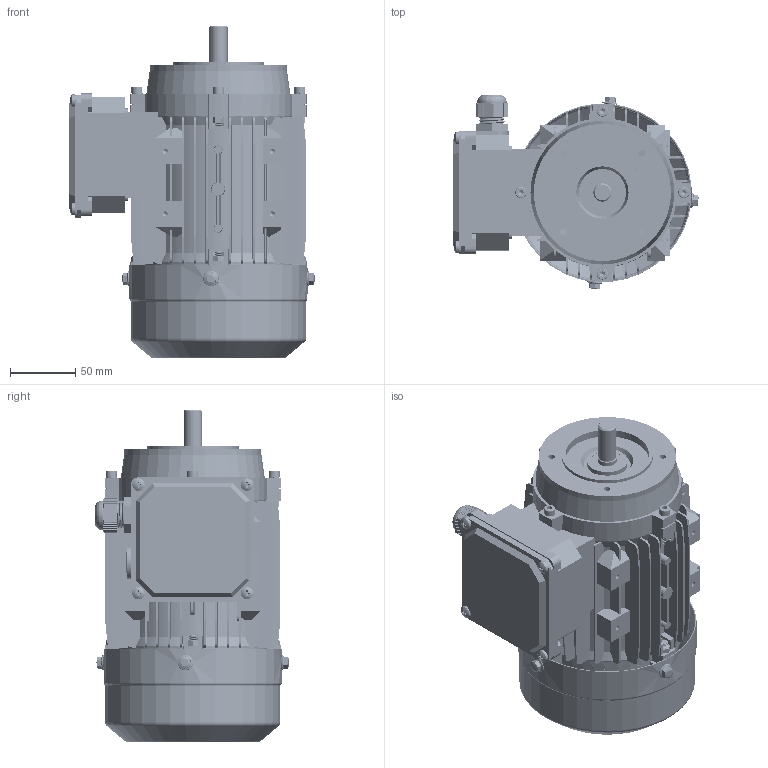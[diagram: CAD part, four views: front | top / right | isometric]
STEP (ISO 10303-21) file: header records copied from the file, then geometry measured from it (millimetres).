
FILE_DESCRIPTION (( 'STEP AP203' ), '1' );
FILE_NAME ('MS71L B14 3D蚾饜芞.STEP', '2024-06-01T08:47:36', ( 'User' ), ( 'China' ), 'SwSTEP 2.0', 'SolidWorks 2018', '' );
FILE_SCHEMA (( 'CONFIG_CONTROL_DESIGN' ));
Length unit declared in the file: millimetre
Products named in the file (17): cross recessed pan head screws gb_GB_CROSS_SCREWS_TYPE1 M5X8-8  H type-C; hex flange bolts-heavy grade b gb_GB_FASTENER_BOLT_HFBB M5X10-C; 蹟杶郋M20X1.5; MS63-71諉盄碟裔; 蹟簸M20X1.5; MS71L  B14  3D蚾饜芞; MS63-71諉盄碟菁釱; 黑芛20X1.5; 8.013.07104MS71B14傷裔; 蚐猾25X14X4; hexagon socket head cap screws gb_GB_FASTENER_SCREWS_HSHCS M5X25-S; 8.034.07101MS71 L儂褲; spring lock washers--normal type gb_GB_FASTENER_WASHER_SW 5; 8.013.07102MS71綴傷裔; hex nuts, style 1-grades ab gb_GB_FASTENER_NUT_SNAB1 M5-S; 8.200.07101MS71 L蛌粣; 8.306.07101MS71邧脯瑞欶
Assembly tree (42 placements, depth 2):
  MS71L  B14  3D蚾饜芞
    8.034.07101MS71 L儂褲
    8.013.07102MS71綴傷裔
    8.200.07101MS71 L蛌粣
    cross recessed pan head screws gb_GB_CROSS_SCREWS_TYPE1 M5X8-8  H type-C  x8
    蹟杶郋M20X1.5
    蹟簸M20X1.5
    黑芛20X1.5
    蚐猾25X14X4
    hexagon socket head cap screws gb_GB_FASTENER_SCREWS_HSHCS M5X25-S  x8
    spring lock washers--normal type gb_GB_FASTENER_WASHER_SW 5  x4
    hex nuts, style 1-grades ab gb_GB_FASTENER_NUT_SNAB1 M5-S  x7
    8.306.07101MS71邧脯瑞欶
    hex flange bolts-heavy grade b gb_GB_FASTENER_BOLT_HFBB M5X10-C  x4
    MS63-71諉盄碟裔
    MS63-71諉盄碟菁釱
    8.013.07104MS71B14傷裔
Bounding box: 187.6 x 148.35 x 253.83 mm (x, y, z)
Volume: 621983.8 mm3; surface area: 466508.6 mm2
Topology: 42 solids, 49 shells, 6155 faces, 14856 edges, 8858 vertices
Faces by surface type: plane 2166, cone 2078, cylinder 1642, bspline 170, torus 83, sphere 16
Entity records: 124550 total; most frequent: CARTESIAN_POINT 41637, ORIENTED_EDGE 17752, DIRECTION 15349, EDGE_CURVE 8876, VERTEX_POINT 5735, VECTOR 5269, LINE 5269, AXIS2_PLACEMENT_3D 5040
